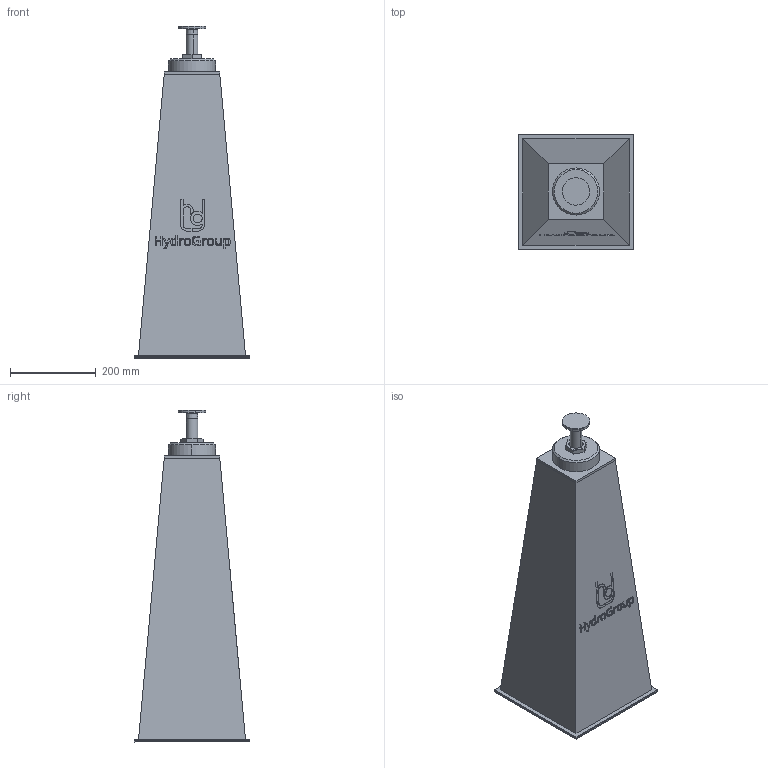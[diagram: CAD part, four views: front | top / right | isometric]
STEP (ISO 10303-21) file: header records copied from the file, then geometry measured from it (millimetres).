
FILE_DESCRIPTION(('STEP AP214'),'1');
FILE_NAME('RSRFE-I-05-V1.stp','2018-06-27T13:28:02',(' '),(' '),'Spatial InterOp 3D',' ',' ');
FILE_SCHEMA(('automotive_design'));
Length unit declared in the file: millimetre
Products named in the file (6): 1; 2; 3; 4; 5; 6
Bounding box: 270 x 270 x 776 mm (x, y, z)
Volume: 25517138 mm3; surface area: 828983.5 mm2
Topology: 6 solids, 6 shells, 217 faces, 533 edges, 348 vertices
Faces by surface type: plane 136, cylinder 33, extrusion 24, cone 20, torus 4
Entity records: 8746 total; most frequent: CARTESIAN_POINT 1778, ORIENTED_EDGE 1066, DIRECTION 989, EDGE_CURVE 533, VECTOR 403, LINE 379, VERTEX_POINT 348, AXIS2_PLACEMENT_3D 293
